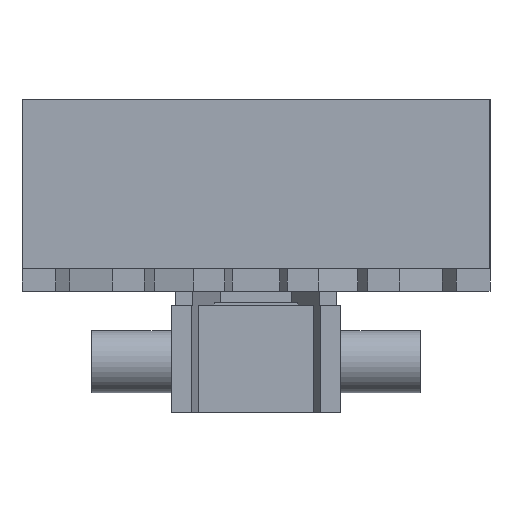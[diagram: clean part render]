
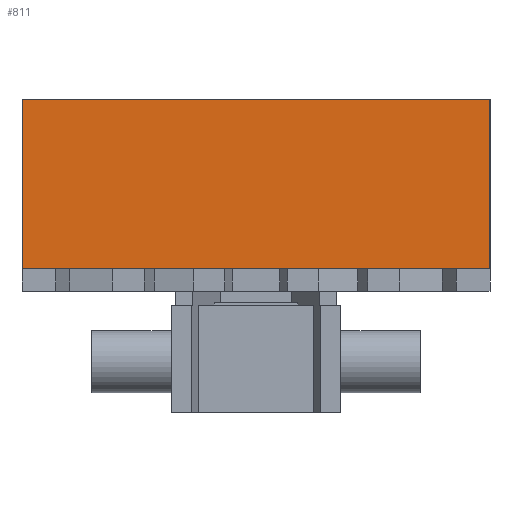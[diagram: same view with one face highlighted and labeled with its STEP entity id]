
A CAD part, left-side view. The second image highlights one B-rep face of the part: STEP entity #811.
In plain terms, the highlighted planar face has unit normal (-1, 0, 0).
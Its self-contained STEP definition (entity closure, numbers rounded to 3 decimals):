
#294 = CARTESIAN_POINT ( 'NONE',  ( -3.825, 41.5, 42.5 ) ) ;
#411 = CARTESIAN_POINT ( 'NONE',  ( -3.825, 41.5, 72.5 ) ) ;
#438 = ORIENTED_EDGE ( 'NONE', *, *, #1408, .T. ) ;
#677 = PLANE ( 'NONE',  #2584 ) ;
#811 = ADVANCED_FACE ( 'NONE', ( #4221 ), #677, .T. ) ;
#938 = EDGE_CURVE ( 'NONE', #2840, #2016, #3836, .T. ) ;
#1148 = CARTESIAN_POINT ( 'NONE',  ( -3.825, -41.5, 42.5 ) ) ;
#1302 = CARTESIAN_POINT ( 'NONE',  ( -3.825, -41.5, 42.5 ) ) ;
#1356 = EDGE_CURVE ( 'NONE', #1479, #3337, #4392, .T. ) ;
#1408 = EDGE_CURVE ( 'NONE', #3337, #2840, #2198, .T. ) ;
#1479 = VERTEX_POINT ( 'NONE', #6091 ) ;
#1542 = EDGE_LOOP ( 'NONE', ( #3983, #3010, #2994, #438 ) ) ;
#1678 = DIRECTION ( 'NONE',  ( -1., 0., 0. ) ) ;
#2016 = VERTEX_POINT ( 'NONE', #3268 ) ;
#2198 = LINE ( 'NONE', #3005, #2718 ) ;
#2584 = AXIS2_PLACEMENT_3D ( 'NONE', #1148, #1678, #3110 ) ;
#2718 = VECTOR ( 'NONE', #5565, 1000. ) ;
#2840 = VERTEX_POINT ( 'NONE', #294 ) ;
#2994 = ORIENTED_EDGE ( 'NONE', *, *, #1356, .T. ) ;
#3005 = CARTESIAN_POINT ( 'NONE',  ( -3.825, 41.5, 42.5 ) ) ;
#3010 = ORIENTED_EDGE ( 'NONE', *, *, #5445, .T. ) ;
#3110 = DIRECTION ( 'NONE',  ( 0., -1., 0. ) ) ;
#3268 = CARTESIAN_POINT ( 'NONE',  ( -3.825, -41.5, 42.5 ) ) ;
#3337 = VERTEX_POINT ( 'NONE', #411 ) ;
#3836 = LINE ( 'NONE', #1302, #5230 ) ;
#3983 = ORIENTED_EDGE ( 'NONE', *, *, #938, .T. ) ;
#4036 = CARTESIAN_POINT ( 'NONE',  ( -3.825, -41.5, 72.5 ) ) ;
#4061 = VECTOR ( 'NONE', #5004, 1000. ) ;
#4221 = FACE_OUTER_BOUND ( 'NONE', #1542, .T. ) ;
#4392 = LINE ( 'NONE', #4036, #4061 ) ;
#4782 = DIRECTION ( 'NONE',  ( 0., -1., 0. ) ) ;
#5004 = DIRECTION ( 'NONE',  ( 0., 1., 0. ) ) ;
#5100 = LINE ( 'NONE', #5842, #5651 ) ;
#5230 = VECTOR ( 'NONE', #4782, 1000. ) ;
#5445 = EDGE_CURVE ( 'NONE', #2016, #1479, #5100, .T. ) ;
#5565 = DIRECTION ( 'NONE',  ( 0., 0., -1. ) ) ;
#5651 = VECTOR ( 'NONE', #6326, 1000. ) ;
#5842 = CARTESIAN_POINT ( 'NONE',  ( -3.825, -41.5, 42.5 ) ) ;
#6091 = CARTESIAN_POINT ( 'NONE',  ( -3.825, -41.5, 72.5 ) ) ;
#6326 = DIRECTION ( 'NONE',  ( 0., 0., 1. ) ) ;
